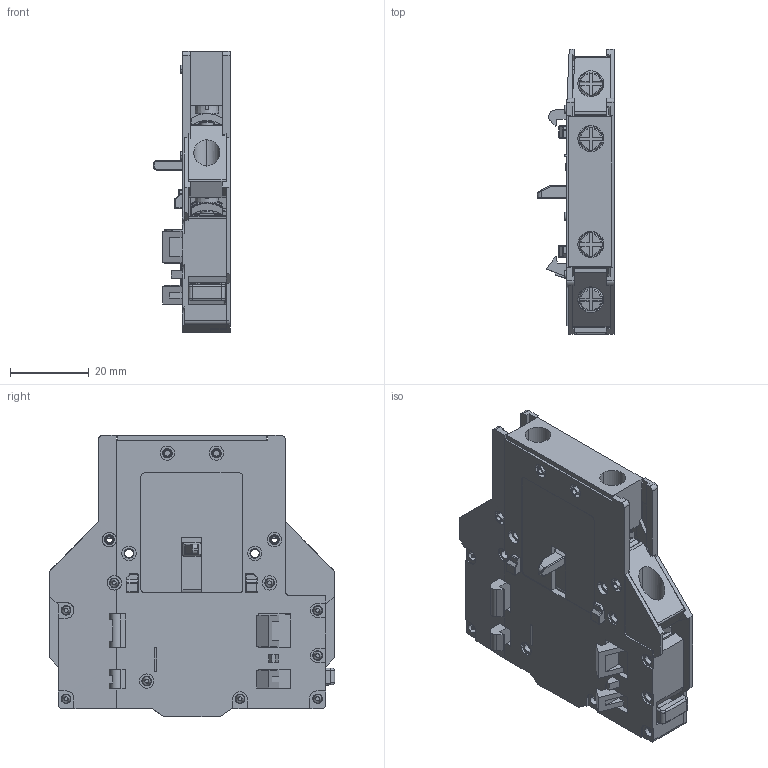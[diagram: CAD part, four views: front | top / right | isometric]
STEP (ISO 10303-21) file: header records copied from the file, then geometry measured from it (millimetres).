
FILE_DESCRIPTION (( 'STEP AP214' ), '1' );
FILE_NAME ('FC1 (1).STEP', '2026-01-30T09:55:40', ( '' ), ( '' ), 'SwSTEP 2.0', 'SolidWorks 2024', '' );
FILE_SCHEMA (( 'AUTOMOTIVE_DESIGN' ));
Length unit declared in the file: millimetre
Products named in the file (24): 5ABB_553_6017_ASM_2.stp; 3ZBW-1-002_4.stp; 8ABB_282_6062_2.stp; 8ABB_550_6076_4.stp; 8ABB_282_6060_AF0_2.stp; 8ABB_553_6016_2.stp; 8ABB_128_6024_2.stp; 8ABB_557_6056_2.stp; 2TFR210017A1001_2.stp; 5ABB_104_6032_ASM_2.stp; 8ABB_024_6160_2.stp; 8ABB_550_6075_4.stp; 8ABB_282_6061_AF0_2.stp; FC1 (1).stp; 8ABB_288_6089_AF1_2.stp; 8ABB_966_6000_2.stp; 8ABB_557_6057_2.stp; 8ABB_300_6113_2.stp; 8ABB_104_6033_2.stp; 8ABB_270_6011_2.stp; 5ABB_550_6053_ASM_2.stp; FC1 (1); 8ABB_005_6076_2.stp; 5ABB_550_6052_ASM_2.stp
Assembly tree (34 placements, depth 5):
  FC1 (1)
    FC1 (1).stp
      5ABB_550_6053_ASM_2.stp  x2
        8ABB_557_6057_2.stp
        8ABB_550_6076_4.stp
      5ABB_550_6052_ASM_2.stp  x2
        8ABB_557_6056_2.stp
        8ABB_550_6076_4.stp
      5ABB_104_6032_ASM_2.stp
        5ABB_553_6017_ASM_2.stp  x2
          8ABB_553_6016_2.stp
          8ABB_550_6075_4.stp
        8ABB_104_6033_2.stp
        8ABB_128_6024_2.stp
        8ABB_282_6061_AF0_2.stp
        8ABB_282_6060_AF0_2.stp
      8ABB_024_6160_2.stp
      8ABB_270_6011_2.stp
      8ABB_005_6076_2.stp
      8ABB_966_6000_2.stp  x4
      3ZBW-1-002_4.stp  x4
      8ABB_300_6113_2.stp
      8ABB_282_6062_2.stp
      8ABB_288_6089_AF1_2.stp
      2TFR210017A1001_2.stp
Bounding box: 19.65 x 72.55 x 71.5 mm (x, y, z)
Volume: 23044.2 mm3; surface area: 48698.8 mm2
Topology: 25 solids, 41 shells, 2612 faces, 6932 edges, 4459 vertices
Faces by surface type: plane 1696, cylinder 625, torus 104, bspline 93, cone 62, sphere 32
Entity records: 80744 total; most frequent: CARTESIAN_POINT 31468, ORIENTED_EDGE 10358, DIRECTION 9657, EDGE_CURVE 5185, LINE 3903, VECTOR 3903, VERTEX_POINT 3357, AXIS2_PLACEMENT_3D 2877
